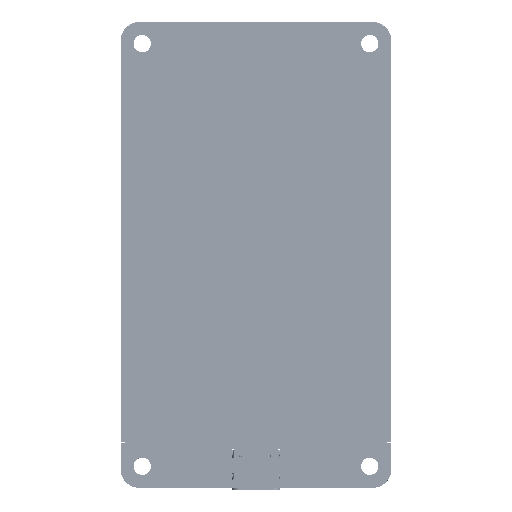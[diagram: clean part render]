
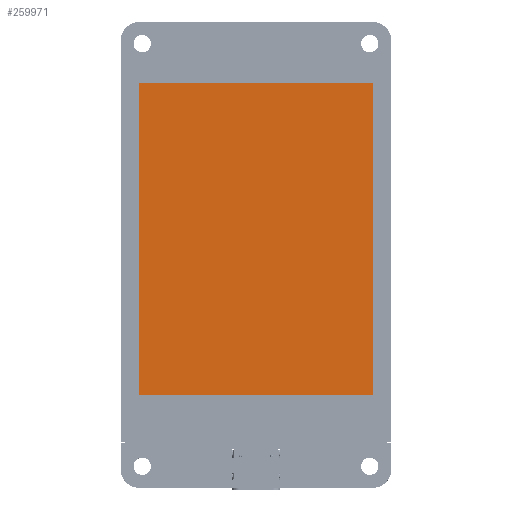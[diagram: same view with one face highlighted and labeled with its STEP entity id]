
A CAD part, top view. The second image highlights one B-rep face of the part: STEP entity #259971.
In plain terms, the highlighted planar face has unit normal (0, 0, 1).
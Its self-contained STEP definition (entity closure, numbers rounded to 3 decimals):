
#259842 = VERTEX_POINT('',#259843);
#259843 = CARTESIAN_POINT('',(21.602,28.801,2.3));
#259849 = EDGE_CURVE('',#259842,#259850,#259852,.T.);
#259850 = VERTEX_POINT('',#259851);
#259851 = CARTESIAN_POINT('',(21.602,-28.801,2.3));
#259852 = LINE('',#259853,#259854);
#259853 = CARTESIAN_POINT('',(21.602,28.801,2.3));
#259854 = VECTOR('',#259855,1.);
#259855 = DIRECTION('',(0.,-1.,0.));
#259880 = EDGE_CURVE('',#259850,#259881,#259883,.T.);
#259881 = VERTEX_POINT('',#259882);
#259882 = CARTESIAN_POINT('',(-21.602,-28.801,2.3));
#259883 = LINE('',#259884,#259885);
#259884 = CARTESIAN_POINT('',(21.602,-28.801,2.3));
#259885 = VECTOR('',#259886,1.);
#259886 = DIRECTION('',(-1.,0.,0.));
#259911 = EDGE_CURVE('',#259881,#259912,#259914,.T.);
#259912 = VERTEX_POINT('',#259913);
#259913 = CARTESIAN_POINT('',(-21.602,28.801,2.3));
#259914 = LINE('',#259915,#259916);
#259915 = CARTESIAN_POINT('',(-21.602,-28.801,2.3));
#259916 = VECTOR('',#259917,1.);
#259917 = DIRECTION('',(0.,1.,0.));
#259942 = EDGE_CURVE('',#259912,#259842,#259943,.T.);
#259943 = LINE('',#259944,#259945);
#259944 = CARTESIAN_POINT('',(-21.602,28.801,2.3));
#259945 = VECTOR('',#259946,1.);
#259946 = DIRECTION('',(1.,0.,0.));
#259971 = ADVANCED_FACE('',(#259972),#259978,.T.);
#259972 = FACE_BOUND('',#259973,.F.);
#259973 = EDGE_LOOP('',(#259974,#259975,#259976,#259977));
#259974 = ORIENTED_EDGE('',*,*,#259849,.T.);
#259975 = ORIENTED_EDGE('',*,*,#259880,.T.);
#259976 = ORIENTED_EDGE('',*,*,#259911,.T.);
#259977 = ORIENTED_EDGE('',*,*,#259942,.T.);
#259978 = PLANE('',#259979);
#259979 = AXIS2_PLACEMENT_3D('',#259980,#259981,#259982);
#259980 = CARTESIAN_POINT('',(21.602,28.801,2.3));
#259981 = DIRECTION('',(0.,0.,1.));
#259982 = DIRECTION('',(1.,0.,0.));
